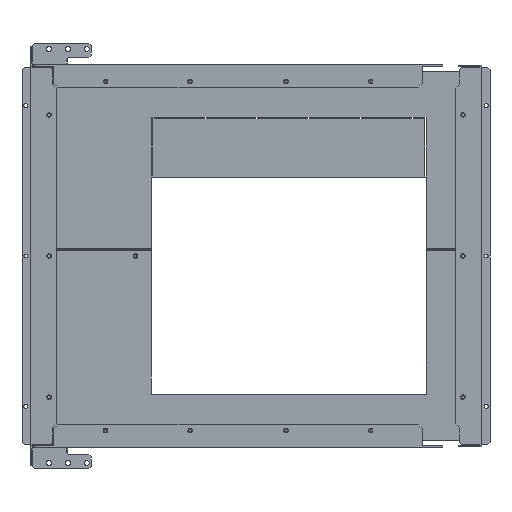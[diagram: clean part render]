
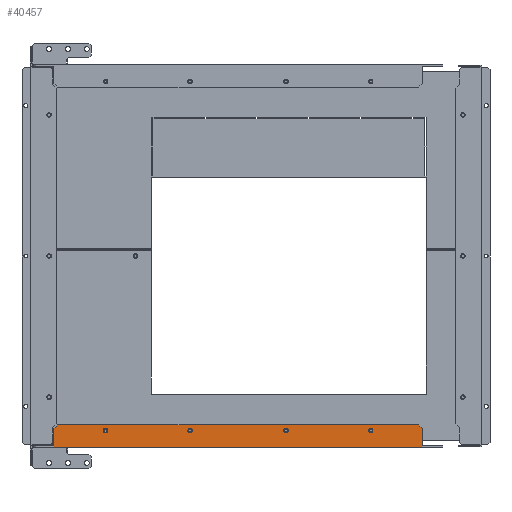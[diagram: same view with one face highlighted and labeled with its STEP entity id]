
A CAD part, left-side view. The second image highlights one B-rep face of the part: STEP entity #40457.
In plain terms, the highlighted planar face has unit normal (-1, 0, 0).
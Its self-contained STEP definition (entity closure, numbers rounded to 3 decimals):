
#867 = EDGE_CURVE ( 'NONE', #25314, #5681, #35424, .T. ) ;
#1850 = ORIENTED_EDGE ( 'NONE', *, *, #72752, .T. ) ;
#2573 = ORIENTED_EDGE ( 'NONE', *, *, #94994, .F. ) ;
#3137 = CARTESIAN_POINT ( 'NONE',  ( -158., -496., -251.5 ) ) ;
#4156 = DIRECTION ( 'NONE',  ( 0., 0., -1. ) ) ;
#4663 = CARTESIAN_POINT ( 'NONE',  ( -158., -6.5, -251.5 ) ) ;
#5431 = EDGE_CURVE ( 'NONE', #87047, #53803, #42389, .T. ) ;
#5681 = VERTEX_POINT ( 'NONE', #39158 ) ;
#8964 = EDGE_CURVE ( 'NONE', #72802, #64995, #11972, .T. ) ;
#8970 = EDGE_CURVE ( 'NONE', #11009, #84429, #84624, .T. ) ;
#9218 = VECTOR ( 'NONE', #65197, 1000. ) ;
#9220 = DIRECTION ( 'NONE',  ( 0., 1., 0. ) ) ;
#9239 = CARTESIAN_POINT ( 'NONE',  ( -158., -77.093, -229.851 ) ) ;
#11009 = VERTEX_POINT ( 'NONE', #32006 ) ;
#11972 = CIRCLE ( 'NONE', #52451, 3. ) ;
#12612 = LINE ( 'NONE', #4663, #55897 ) ;
#13073 = EDGE_CURVE ( 'NONE', #54342, #49125, #102382, .T. ) ;
#13624 = EDGE_LOOP ( 'NONE', ( #16218, #48390 ) ) ;
#14298 = VERTEX_POINT ( 'NONE', #55779 ) ;
#16218 = ORIENTED_EDGE ( 'NONE', *, *, #58192, .F. ) ;
#17606 = CARTESIAN_POINT ( 'NONE',  ( -158., -496., -251.5 ) ) ;
#17617 = CARTESIAN_POINT ( 'NONE',  ( -158., -187.371, -229.003 ) ) ;
#19454 = CARTESIAN_POINT ( 'NONE',  ( -158., -75., -232. ) ) ;
#21257 = CARTESIAN_POINT ( 'NONE',  ( -158., -427.536, -235. ) ) ;
#22336 = ORIENTED_EDGE ( 'NONE', *, *, #13073, .T. ) ;
#22536 = DIRECTION ( 'NONE',  ( 0., 1., 0. ) ) ;
#24032 = ORIENTED_EDGE ( 'NONE', *, *, #867, .F. ) ;
#25314 = VERTEX_POINT ( 'NONE', #21257 ) ;
#25487 = VECTOR ( 'NONE', #82658, 1000. ) ;
#25711 = DIRECTION ( 'NONE',  ( 0., 1., 0. ) ) ;
#26140 = CARTESIAN_POINT ( 'NONE',  ( -158., -385.875, -119.375 ) ) ;
#26610 = CARTESIAN_POINT ( 'NONE',  ( -158., -6.5, -229.5 ) ) ;
#26718 = CARTESIAN_POINT ( 'NONE',  ( -158., -315., -232. ) ) ;
#26849 = DIRECTION ( 'NONE',  ( 0., 1., 0. ) ) ;
#27470 = CARTESIAN_POINT ( 'NONE',  ( -158., -251.25, -254. ) ) ;
#27613 = CARTESIAN_POINT ( 'NONE',  ( -158., -251.25, -224.5 ) ) ;
#28459 = EDGE_CURVE ( 'NONE', #49125, #103742, #38490, .T. ) ;
#28745 = AXIS2_PLACEMENT_3D ( 'NONE', #68767, #52893, #77753 ) ;
#29860 = DIRECTION ( 'NONE',  ( 0., 0.707, -0.707 ) ) ;
#30269 = EDGE_CURVE ( 'NONE', #14298, #37742, #81685, .T. ) ;
#31318 = EDGE_CURVE ( 'NONE', #93562, #56067, #86607, .T. ) ;
#31468 = CIRCLE ( 'NONE', #90619, 3. ) ;
#31631 = CARTESIAN_POINT ( 'NONE',  ( -158., -314.842, -229.004 ) ) ;
#31707 = AXIS2_PLACEMENT_3D ( 'NONE', #27470, #59771, #92070 ) ;
#32006 = CARTESIAN_POINT ( 'NONE',  ( -158., -187.629, -234.997 ) ) ;
#34442 = EDGE_CURVE ( 'NONE', #84429, #11009, #52456, .T. ) ;
#34612 = DIRECTION ( 'NONE',  ( 0., 0.707, 0.707 ) ) ;
#35424 = CIRCLE ( 'NONE', #79386, 3. ) ;
#36032 = CARTESIAN_POINT ( 'NONE',  ( -158., -251.25, -254. ) ) ;
#36134 = EDGE_CURVE ( 'NONE', #103742, #53803, #12612, .T. ) ;
#36516 = EDGE_LOOP ( 'NONE', ( #84035, #2573, #1850, #59887, #65200, #22336, #44927, #84903 ) ) ;
#37742 = VERTEX_POINT ( 'NONE', #59499 ) ;
#38490 = LINE ( 'NONE', #70257, #82211 ) ;
#39158 = CARTESIAN_POINT ( 'NONE',  ( -158., -427.464, -229. ) ) ;
#40457 = ADVANCED_FACE ( 'NONE', ( #43342, #50779, #83044, #83568, #67681 ), #99965, .F. ) ;
#40830 = CARTESIAN_POINT ( 'NONE',  ( -158., -187.5, -232. ) ) ;
#40948 = AXIS2_PLACEMENT_3D ( 'NONE', #95019, #102457, #62211 ) ;
#42389 = LINE ( 'NONE', #36032, #104103 ) ;
#43312 = EDGE_LOOP ( 'NONE', ( #43794, #86427 ) ) ;
#43342 = FACE_BOUND ( 'NONE', #13624, .T. ) ;
#43794 = ORIENTED_EDGE ( 'NONE', *, *, #8970, .F. ) ;
#44199 = EDGE_CURVE ( 'NONE', #37742, #54342, #91152, .T. ) ;
#44377 = DIRECTION ( 'NONE',  ( -1., 0., 0. ) ) ;
#44927 = ORIENTED_EDGE ( 'NONE', *, *, #28459, .T. ) ;
#48390 = ORIENTED_EDGE ( 'NONE', *, *, #31318, .F. ) ;
#49125 = VERTEX_POINT ( 'NONE', #26610 ) ;
#49289 = DIRECTION ( 'NONE',  ( 0., 1., 0. ) ) ;
#50779 = FACE_BOUND ( 'NONE', #43312, .T. ) ;
#51952 = CARTESIAN_POINT ( 'NONE',  ( -158., -496., -254. ) ) ;
#52451 = AXIS2_PLACEMENT_3D ( 'NONE', #26718, #72585, #49289 ) ;
#52456 = CIRCLE ( 'NONE', #28745, 3. ) ;
#52779 = CIRCLE ( 'NONE', #93372, 3. ) ;
#52893 = DIRECTION ( 'NONE',  ( -1., 0., 0. ) ) ;
#53208 = EDGE_CURVE ( 'NONE', #64995, #72802, #52779, .T. ) ;
#53803 = VERTEX_POINT ( 'NONE', #64160 ) ;
#54342 = VERTEX_POINT ( 'NONE', #91008 ) ;
#55368 = CARTESIAN_POINT ( 'NONE',  ( -158., -315.158, -234.996 ) ) ;
#55779 = CARTESIAN_POINT ( 'NONE',  ( -158., -496., -229.5 ) ) ;
#55897 = VECTOR ( 'NONE', #4156, 1000. ) ;
#56067 = VERTEX_POINT ( 'NONE', #56230 ) ;
#56230 = CARTESIAN_POINT ( 'NONE',  ( -158., -72.907, -234.149 ) ) ;
#58192 = EDGE_CURVE ( 'NONE', #56067, #93562, #31468, .T. ) ;
#59499 = CARTESIAN_POINT ( 'NONE',  ( -158., -491., -224.5 ) ) ;
#59771 = DIRECTION ( 'NONE',  ( 1., 0., 0. ) ) ;
#59870 = EDGE_LOOP ( 'NONE', ( #78899, #62828 ) ) ;
#59887 = ORIENTED_EDGE ( 'NONE', *, *, #30269, .T. ) ;
#61003 = VECTOR ( 'NONE', #34612, 1000. ) ;
#62138 = CARTESIAN_POINT ( 'NONE',  ( -158., -116.625, -119.375 ) ) ;
#62211 = DIRECTION ( 'NONE',  ( 0., 1., 0. ) ) ;
#62730 = CARTESIAN_POINT ( 'NONE',  ( -158., -315., -232. ) ) ;
#62828 = ORIENTED_EDGE ( 'NONE', *, *, #53208, .F. ) ;
#63999 = CIRCLE ( 'NONE', #79264, 3. ) ;
#64160 = CARTESIAN_POINT ( 'NONE',  ( -158., -6.5, -254. ) ) ;
#64995 = VERTEX_POINT ( 'NONE', #31631 ) ;
#65164 = DIRECTION ( 'NONE',  ( 0., 1., 0. ) ) ;
#65197 = DIRECTION ( 'NONE',  ( 0., 0., -1. ) ) ;
#65200 = ORIENTED_EDGE ( 'NONE', *, *, #44199, .T. ) ;
#67681 = FACE_OUTER_BOUND ( 'NONE', #36516, .T. ) ;
#68319 = DIRECTION ( 'NONE',  ( 0., 1., 0. ) ) ;
#68767 = CARTESIAN_POINT ( 'NONE',  ( -158., -187.5, -232. ) ) ;
#70212 = LINE ( 'NONE', #79170, #88819 ) ;
#70257 = CARTESIAN_POINT ( 'NONE',  ( -158., -6.5, -254. ) ) ;
#72585 = DIRECTION ( 'NONE',  ( -1., 0., 0. ) ) ;
#72752 = EDGE_CURVE ( 'NONE', #93997, #14298, #70212, .T. ) ;
#72802 = VERTEX_POINT ( 'NONE', #55368 ) ;
#77192 = EDGE_CURVE ( 'NONE', #5681, #25314, #63999, .T. ) ;
#77753 = DIRECTION ( 'NONE',  ( 0., 1., 0. ) ) ;
#78899 = ORIENTED_EDGE ( 'NONE', *, *, #8964, .F. ) ;
#79170 = CARTESIAN_POINT ( 'NONE',  ( -158., -496., -254. ) ) ;
#79264 = AXIS2_PLACEMENT_3D ( 'NONE', #96156, #98202, #25711 ) ;
#79386 = AXIS2_PLACEMENT_3D ( 'NONE', #89640, #90704, #9220 ) ;
#79489 = AXIS2_PLACEMENT_3D ( 'NONE', #40830, #95925, #65164 ) ;
#79544 = ORIENTED_EDGE ( 'NONE', *, *, #77192, .F. ) ;
#81685 = LINE ( 'NONE', #26140, #61003 ) ;
#82211 = VECTOR ( 'NONE', #92504, 1000. ) ;
#82339 = VECTOR ( 'NONE', #29860, 1000. ) ;
#82658 = DIRECTION ( 'NONE',  ( 0., 1., 0. ) ) ;
#83044 = FACE_BOUND ( 'NONE', #59870, .T. ) ;
#83568 = FACE_BOUND ( 'NONE', #99899, .T. ) ;
#83983 = DIRECTION ( 'NONE',  ( -1., 0., 0. ) ) ;
#84035 = ORIENTED_EDGE ( 'NONE', *, *, #5431, .F. ) ;
#84429 = VERTEX_POINT ( 'NONE', #17617 ) ;
#84624 = CIRCLE ( 'NONE', #79489, 3. ) ;
#84903 = ORIENTED_EDGE ( 'NONE', *, *, #36134, .T. ) ;
#86427 = ORIENTED_EDGE ( 'NONE', *, *, #34442, .F. ) ;
#86607 = CIRCLE ( 'NONE', #40948, 3. ) ;
#87047 = VERTEX_POINT ( 'NONE', #51952 ) ;
#88819 = VECTOR ( 'NONE', #94555, 1000. ) ;
#89640 = CARTESIAN_POINT ( 'NONE',  ( -158., -427.5, -232. ) ) ;
#90099 = LINE ( 'NONE', #17606, #9218 ) ;
#90619 = AXIS2_PLACEMENT_3D ( 'NONE', #19454, #83983, #26849 ) ;
#90704 = DIRECTION ( 'NONE',  ( -1., 0., 0. ) ) ;
#91008 = CARTESIAN_POINT ( 'NONE',  ( -158., -11.5, -224.5 ) ) ;
#91152 = LINE ( 'NONE', #27613, #25487 ) ;
#92070 = DIRECTION ( 'NONE',  ( 0., 0., 1. ) ) ;
#92504 = DIRECTION ( 'NONE',  ( 0., 0., -1. ) ) ;
#93372 = AXIS2_PLACEMENT_3D ( 'NONE', #62730, #44377, #22536 ) ;
#93562 = VERTEX_POINT ( 'NONE', #9239 ) ;
#93997 = VERTEX_POINT ( 'NONE', #3137 ) ;
#94555 = DIRECTION ( 'NONE',  ( 0., 0., 1. ) ) ;
#94994 = EDGE_CURVE ( 'NONE', #93997, #87047, #90099, .T. ) ;
#95019 = CARTESIAN_POINT ( 'NONE',  ( -158., -75., -232. ) ) ;
#95925 = DIRECTION ( 'NONE',  ( -1., 0., 0. ) ) ;
#96156 = CARTESIAN_POINT ( 'NONE',  ( -158., -427.5, -232. ) ) ;
#97478 = CARTESIAN_POINT ( 'NONE',  ( -158., -6.5, -251.5 ) ) ;
#98202 = DIRECTION ( 'NONE',  ( -1., 0., 0. ) ) ;
#99899 = EDGE_LOOP ( 'NONE', ( #24032, #79544 ) ) ;
#99965 = PLANE ( 'NONE',  #31707 ) ;
#102382 = LINE ( 'NONE', #62138, #82339 ) ;
#102457 = DIRECTION ( 'NONE',  ( -1., 0., 0. ) ) ;
#103742 = VERTEX_POINT ( 'NONE', #97478 ) ;
#104103 = VECTOR ( 'NONE', #68319, 1000. ) ;
